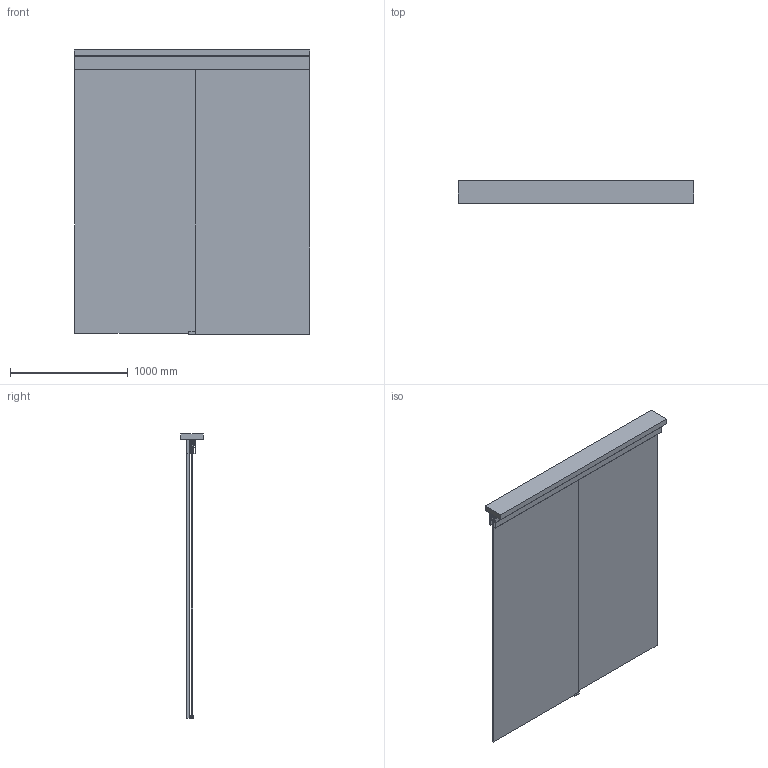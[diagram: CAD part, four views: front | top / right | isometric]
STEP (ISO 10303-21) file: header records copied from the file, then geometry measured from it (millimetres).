
FILE_DESCRIPTION(('STEP AP242'),'1');
FILE_NAME('OPO_65.084.07.stp','2026-02-23T17:28:37',(' '),(' '),'Spatial InterOp 3D',' ',' ');
FILE_SCHEMA(('AP242_MANAGED_MODEL_BASED_3D_ENGINEERING_MIM_LF {1 0 10303 442 1 1 4}'));
Length unit declared in the file: millimetre
Products named in the file (13): Zeichnung1; OPO_65.084.07_Bodenfuehrung_Glas; OPO_65.084.07_Magnetantrieb_Teil1; OPO_65.084.07_Magnetantrieb_Teil2; OPO_65.084.07_Magnetantrieb_Teil3; OPO_65.084.07_Magnetantrieb_Teil4; OPO_65.084.07_Magnetantrieb_Teil5; OPO_65.084.07_Magnetantrieb_Teil6; OPO_65.084.07_Magnetantrieb_Teil7; OPO_65.084.07_Magnetantrieb_Teil8; OPO_65.084.32; OPO_65.084.07_Aufhaengung_Glas_mit_Glasbearbeitung_E_Space; AutoCreatedBlock_15B
Assembly tree (14 placements, depth 2):
  Zeichnung1
    OPO_65.084.07_Bodenfuehrung_Glas
    OPO_65.084.07_Magnetantrieb_Teil1
    OPO_65.084.07_Magnetantrieb_Teil2
    OPO_65.084.07_Magnetantrieb_Teil3
    OPO_65.084.07_Magnetantrieb_Teil4
    OPO_65.084.07_Magnetantrieb_Teil5  x2
    OPO_65.084.07_Magnetantrieb_Teil6
    OPO_65.084.07_Magnetantrieb_Teil7
    OPO_65.084.07_Magnetantrieb_Teil8
    OPO_65.084.32
    OPO_65.084.07_Aufhaengung_Glas_mit_Glasbearbeitung_E_Space  x2
    AutoCreatedBlock_15B
Bounding box: 2000 x 188 x 2418 mm (x, y, z)
Volume: 93364059 mm3; surface area: 12837137.8 mm2
Topology: 69 solids, 69 shells, 1838 faces, 4798 edges, 3174 vertices
Faces by surface type: plane 1139, cylinder 697, cone 2
Entity records: 60534 total; most frequent: CARTESIAN_POINT 8772, DIRECTION 8259, ORIENTED_EDGE 8050, EDGE_CURVE 4025, LINE 2833, VECTOR 2833, AXIS2_PLACEMENT_3D 2713, VERTEX_POINT 2666
